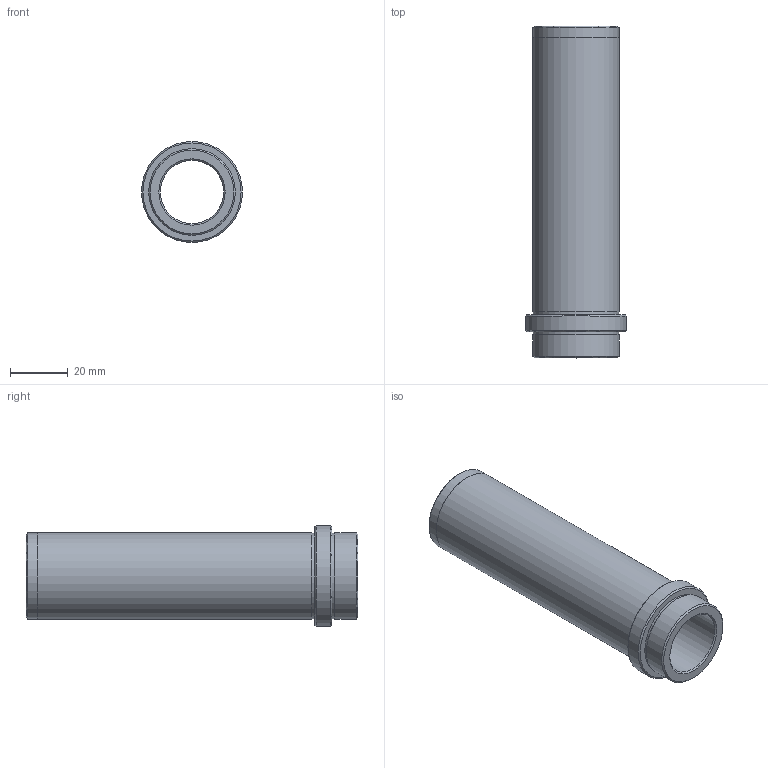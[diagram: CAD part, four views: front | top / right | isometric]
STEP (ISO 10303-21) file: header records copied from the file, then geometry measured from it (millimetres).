
FILE_DESCRIPTION( ( 'STEP AP203' ), '1' );
FILE_NAME( 'D:/Cuma/24 03 2009/D21/D21_22X106.step', '2002-12-31T22:06:43', ( ' ' ), ( ' ' ), 'XStep 1.0', ' ', ' ' );
FILE_SCHEMA( ( 'CONFIG_CONTROL_DESIGN' ) );
Length unit declared in the file: metre
Products named in the file (1): 1
Bounding box: 35 x 115 x 35 mm (x, y, z)
Volume: 38971.4 mm3; surface area: 19973.3 mm2
Topology: 1 solids, 1 shells, 20 faces, 33 edges, 20 vertices
Faces by surface type: cylinder 7, plane 7, cone 6
Full cylindrical faces by diameter (mm): 22 x1, 29.5 x2, 29.9 x1, 30 x2, 35 x1
Entity records: 453 total; most frequent: DIRECTION 82, CARTESIAN_POINT 61, AXIS2_PLACEMENT_3D 41, EDGE_LOOP 40, ORIENTED_EDGE 40, FACE_OUTER_BOUND 27, ADVANCED_FACE 20, EDGE_CURVE 20
